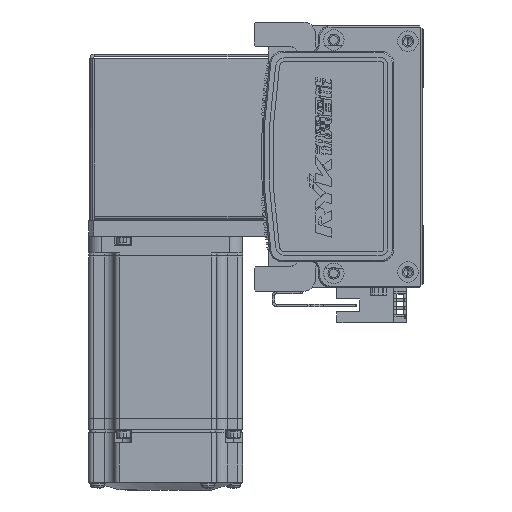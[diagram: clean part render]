
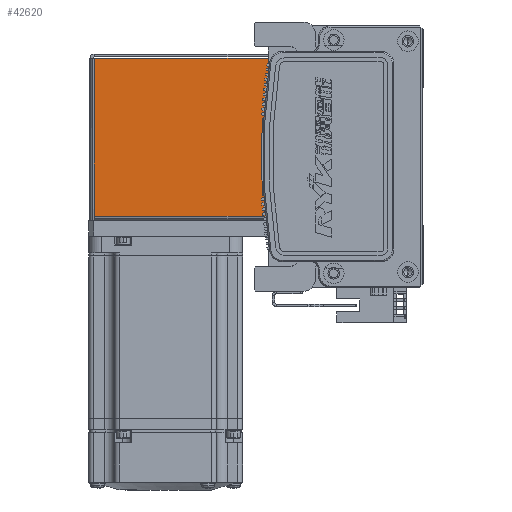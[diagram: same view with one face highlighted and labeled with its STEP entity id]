
A CAD part, left-side view. The second image highlights one B-rep face of the part: STEP entity #42620.
In plain terms, the highlighted planar face has unit normal (-1, 0, 0) as drawn and (0, 0, 1) by its records, which use the part's own axes.
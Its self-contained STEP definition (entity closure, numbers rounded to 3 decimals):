
#1540 = ORIENTED_EDGE ( 'NONE', *, *, #37260, .F. ) ;
#4740 = LINE ( 'NONE', #10124, #59767 ) ;
#6155 = DIRECTION ( 'NONE',  ( -1., 0., 0. ) ) ;
#10124 = CARTESIAN_POINT ( 'NONE',  ( 0., 68.5, 35. ) ) ;
#16708 = VECTOR ( 'NONE', #64041, 1000. ) ;
#17940 = CARTESIAN_POINT ( 'NONE',  ( 0., 0., 35. ) ) ;
#18193 = CARTESIAN_POINT ( 'NONE',  ( -32.5, 0.737, 35. ) ) ;
#18667 = EDGE_CURVE ( 'NONE', #70703, #38772, #54602, .T. ) ;
#19122 = VERTEX_POINT ( 'NONE', #56376 ) ;
#21062 = LINE ( 'NONE', #18193, #49437 ) ;
#23012 = DIRECTION ( 'NONE',  ( 0., 0., -1. ) ) ;
#24951 = DIRECTION ( 'NONE',  ( 0., 1., 0. ) ) ;
#27050 = LINE ( 'NONE', #47956, #16708 ) ;
#30504 = CARTESIAN_POINT ( 'NONE',  ( 30.763, 0.737, 35. ) ) ;
#33544 = ORIENTED_EDGE ( 'NONE', *, *, #18667, .T. ) ;
#34562 = PLANE ( 'NONE',  #41871 ) ;
#37260 = EDGE_CURVE ( 'NONE', #19122, #39432, #27050, .T. ) ;
#38772 = VERTEX_POINT ( 'NONE', #42447 ) ;
#39432 = VERTEX_POINT ( 'NONE', #42355 ) ;
#41338 = EDGE_LOOP ( 'NONE', ( #33544, #67433, #1540, #55353 ) ) ;
#41871 = AXIS2_PLACEMENT_3D ( 'NONE', #17940, #23012, #61458 ) ;
#42355 = CARTESIAN_POINT ( 'NONE',  ( -30.793, 68.5, 35. ) ) ;
#42447 = CARTESIAN_POINT ( 'NONE',  ( 30.763, 68.5, 35. ) ) ;
#42620 = ADVANCED_FACE ( 'NONE', ( #67719 ), #34562, .F. ) ;
#43388 = EDGE_CURVE ( 'NONE', #38772, #39432, #4740, .T. ) ;
#47956 = CARTESIAN_POINT ( 'NONE',  ( -30.793, 0., 35. ) ) ;
#48632 = VECTOR ( 'NONE', #24951, 1000. ) ;
#49437 = VECTOR ( 'NONE', #6155, 1000. ) ;
#54602 = LINE ( 'NONE', #30504, #48632 ) ;
#55353 = ORIENTED_EDGE ( 'NONE', *, *, #58700, .F. ) ;
#56376 = CARTESIAN_POINT ( 'NONE',  ( -30.793, 0.737, 35. ) ) ;
#58700 = EDGE_CURVE ( 'NONE', #70703, #19122, #21062, .T. ) ;
#59767 = VECTOR ( 'NONE', #65957, 1000. ) ;
#60803 = CARTESIAN_POINT ( 'NONE',  ( 30.763, 0.737, 35. ) ) ;
#61458 = DIRECTION ( 'NONE',  ( -1., 0., 0. ) ) ;
#64041 = DIRECTION ( 'NONE',  ( 0., 1., 0. ) ) ;
#65957 = DIRECTION ( 'NONE',  ( -1., 0., 0. ) ) ;
#67433 = ORIENTED_EDGE ( 'NONE', *, *, #43388, .T. ) ;
#67719 = FACE_OUTER_BOUND ( 'NONE', #41338, .T. ) ;
#70703 = VERTEX_POINT ( 'NONE', #60803 ) ;
